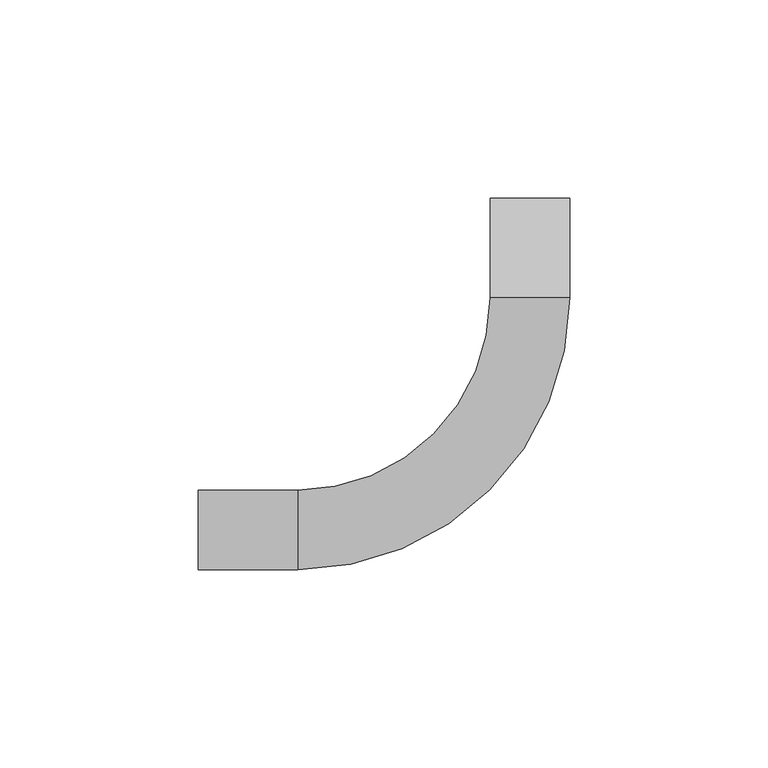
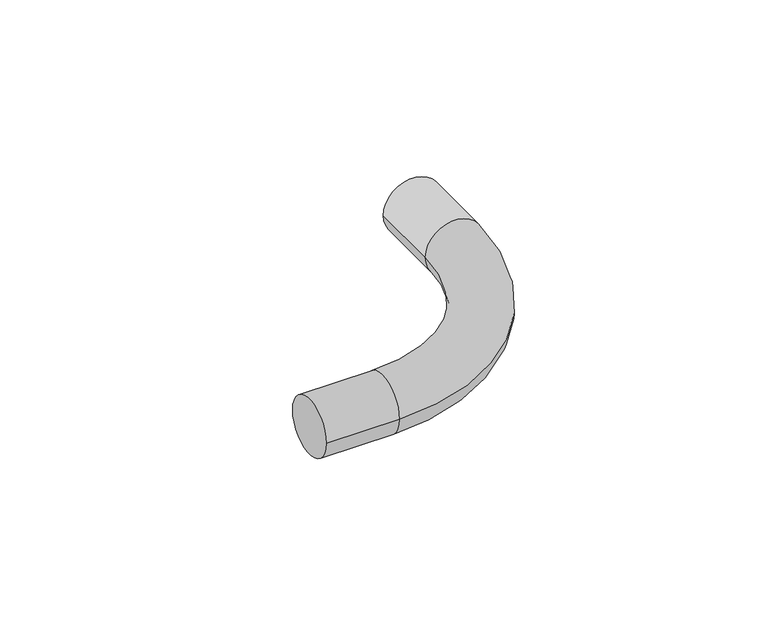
"""IFC4 building model written with IfcOpenShell, lengths in millimetres: cable carrier fitting geometry, Отвод Трубы гладкие жесткие ПВХ : Отвод Трубы гладкие жесткие ПВХ."""

from ifc_helpers import new_model, si_unit, point, frame, origin, place, context, project, spatial, circle_curve, ellipse_curve, trimmed, source, transform, mapped, element, save
from ifc_brep_helpers import plane_surface, cylinder_surface, revolved_surface, advanced_brep


def cable_carrier_fitting_216e78f6(model_context):
    return source(origin(), model_context, "Body", "AdvancedBrep", [
        advanced_brep(
        [(-83.4898, -9.9949, 0.0), (-83.4898, 9.9949, 0.0), (-58.4962, -9.9949, 0.0), (-58.4962, 9.9949, 0.0), (-9.9949, 58.4962, 0.0), (9.9949, 58.4962, 0.0), (9.9949, 83.4898, 0.0), (-9.9949, 83.4898, 0.0)],
        [
            (0, 1, circle_curve(frame((-83.4898, 0.0, 0.0), z_axis=(-1.0, 0.0, 0.0), x_axis=(0.0, 1.0, 0.0)), 9.9949)),
            (1, 0, circle_curve(frame((-83.4898, 0.0, 0.0), z_axis=(-1.0, 0.0, 0.0), x_axis=(0.0, 1.0, 0.0)), 9.9949)),
            (0, 2),
            (2, 3, circle_curve(frame((-58.4962, 0.0, 0.0), z_axis=(-1.0, 0.0, 0.0), x_axis=(0.0, 1.0, 0.0)), 9.9949)),
            (3, 1),
            (3, 2, circle_curve(frame((-58.4962, 0.0, 0.0), z_axis=(-1.0, 0.0, 0.0), x_axis=(0.0, 1.0, 0.0)), 9.9949)),
            (4, 3, circle_curve(frame((-58.4962, 58.4962, 0.0), z_axis=(0.0, 0.0, -1.0), x_axis=(0.0, -1.0, 0.0)), 48.5013)),
            (2, 5, circle_curve(frame((-58.4962, 58.4962, 0.0), z_axis=(0.0, 0.0, 1.0), x_axis=(0.0, -1.0, 0.0)), 68.4911)),
            (5, 4, circle_curve(frame((0.0, 58.4962, 0.0), z_axis=(0.0, -1.0, 0.0), x_axis=(-1.0, 0.0, 0.0)), 9.9949)),
            (4, 5, circle_curve(frame((0.0, 58.4962, 0.0), z_axis=(0.0, -1.0, 0.0), x_axis=(-1.0, 0.0, 0.0)), 9.9949)),
            (6, 7, circle_curve(frame((0.0, 83.4898, 0.0), z_axis=(0.0, 1.0, 0.0), x_axis=(-1.0, 0.0, 0.0)), 9.9949)),
            (7, 6, circle_curve(frame((0.0, 83.4898, 0.0), z_axis=(0.0, 1.0, 0.0), x_axis=(-1.0, 0.0, 0.0)), 9.9949)),
            (5, 6),
            (7, 4),
        ],
        [
            plane_surface(frame((-83.4898, 0.0, 0.0), z_axis=(-1.0, 0.0, 0.0), x_axis=(0.0, 0.0, 1.0))),
            cylinder_surface(frame((-83.4898, 0.0, 0.0), z_axis=(-1.0, 0.0, 0.0), x_axis=(0.0, 1.0, 0.0)), 9.9949),
            revolved_surface(trimmed(ellipse_curve(frame((-58.4962, 0.0, 0.0), z_axis=(-1.0, 0.0, 0.0), x_axis=(0.0, 1.0, 0.0)), 9.9949, 9.9949), [point((-58.4962, -9.9949, 0.0))], [point((-58.4962, 9.9949, 0.0))], True, "CARTESIAN"), (-58.4962, 58.4962, 0.0), (0.0, 0.0, 1.0)),
            revolved_surface(trimmed(ellipse_curve(frame((-58.4962, 0.0, 0.0), z_axis=(-1.0, 0.0, 0.0), x_axis=(0.0, 1.0, 0.0)), 9.9949, 9.9949), [point((-58.4962, 9.9949, 0.0))], [point((-58.4962, -9.9949, 0.0))], True, "CARTESIAN"), (-58.4962, 58.4962, 0.0), (0.0, 0.0, 1.0)),
            plane_surface(frame((0.0, 83.4898, 0.0), z_axis=(0.0, 1.0, 0.0), x_axis=(0.0, 0.0, 1.0))),
            cylinder_surface(frame((0.0, 58.4962, 0.0), z_axis=(0.0, -1.0, 0.0), x_axis=(-1.0, 0.0, 0.0)), 9.9949),
        ],
        [
            (0, [[1, 2]]),
            (1, [[-1, 3, 4, 5]]),
            (1, [[-2, -5, 6, -3]]),
            (2, [[7, -4, 8, 9]]),
            (3, [[-8, -6, -7, 10]]),
            (4, [[11, 12]]),
            (5, [[-9, 13, -12, 14]]),
            (5, [[-10, -14, -11, -13]]),
        ],
    ),
    ])


if __name__ == "__main__":
    model = new_model("IFC4")
    model_context = context("Model", 3, world=origin())
    ifc_project = project(units=[si_unit("LENGTHUNIT", "METRE", prefix="MILLI")], contexts=[model_context])
    site = spatial("IfcSite", under=ifc_project)
    building = spatial("IfcBuilding", under=site)
    placement = place(None, origin())
    cable_carrier_fitting_shape = cable_carrier_fitting_216e78f6(model_context)
    element("IfcCableCarrierFitting", 1, ObjectType="Отвод Трубы гладкие жесткие ПВХ : Отвод Трубы гладкие жесткие ПВХ", at=placement, inside=building, context=model_context, shape_type="MappedRepresentation", body=[
        mapped(cable_carrier_fitting_shape, transform((0.0, 0.0, 0.0), x_axis=(1.0, 0.0, 0.0), y_axis=(0.0, 1.0, 0.0), z_axis=(0.0, 0.0, 1.0))),
    ])
    save(model, "model.ifc")
